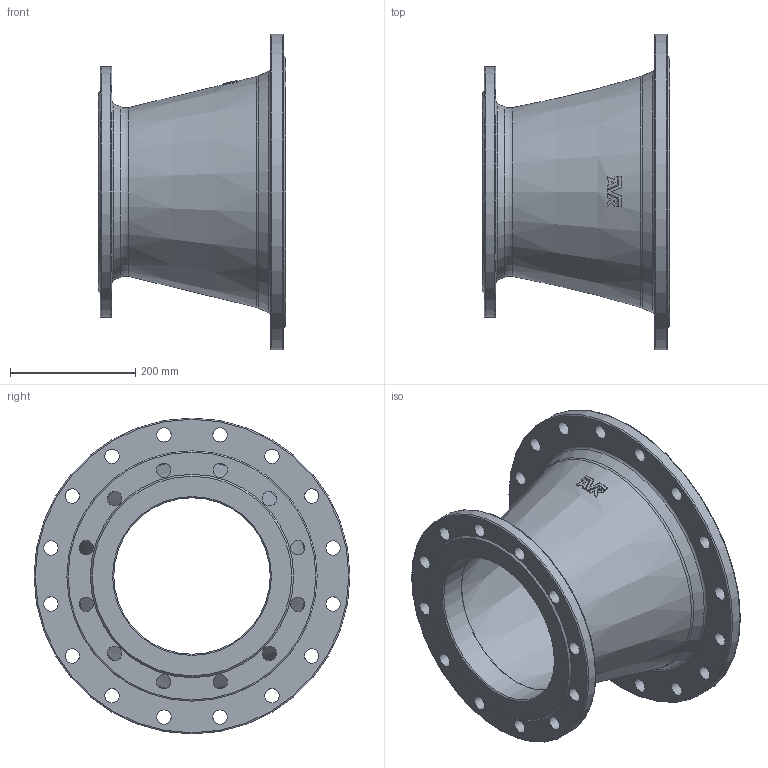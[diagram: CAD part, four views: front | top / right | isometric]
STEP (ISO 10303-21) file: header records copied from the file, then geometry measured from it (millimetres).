
FILE_DESCRIPTION (( 'STEP AP203' ), '1' );
FILE_NAME ('O_712_2210_DN350_DN250_0X_REV01.step', '2024-08-08T06:09:51', ( '' ), ( '' ), 'SwSTEP 2.0', 'SolidWorks 2022', '' );
FILE_SCHEMA (( 'CONFIG_CONTROL_DESIGN' ));
Length unit declared in the file: millimetre
Products named in the file (1): O_712_2210_DN350_DN250_0X_REV01
Bounding box: 300 x 505 x 505 mm (x, y, z)
Volume: 6086794.8 mm3; surface area: 946198.1 mm2
Topology: 1 solids, 1 shells, 97 faces, 293 edges, 190 vertices
Faces by surface type: plane 41, cylinder 34, cone 12, torus 10
Full cylindrical faces by diameter (mm): 23 x28, 250 x1, 350 x1, 400 x1, 505 x1
Entity records: 3009 total; most frequent: CARTESIAN_POINT 740, DIRECTION 431, ORIENTED_EDGE 420, EDGE_CURVE 210, EDGE_LOOP 197, AXIS2_PLACEMENT_3D 197, VERTEX_POINT 157, FACE_OUTER_BOUND 139
